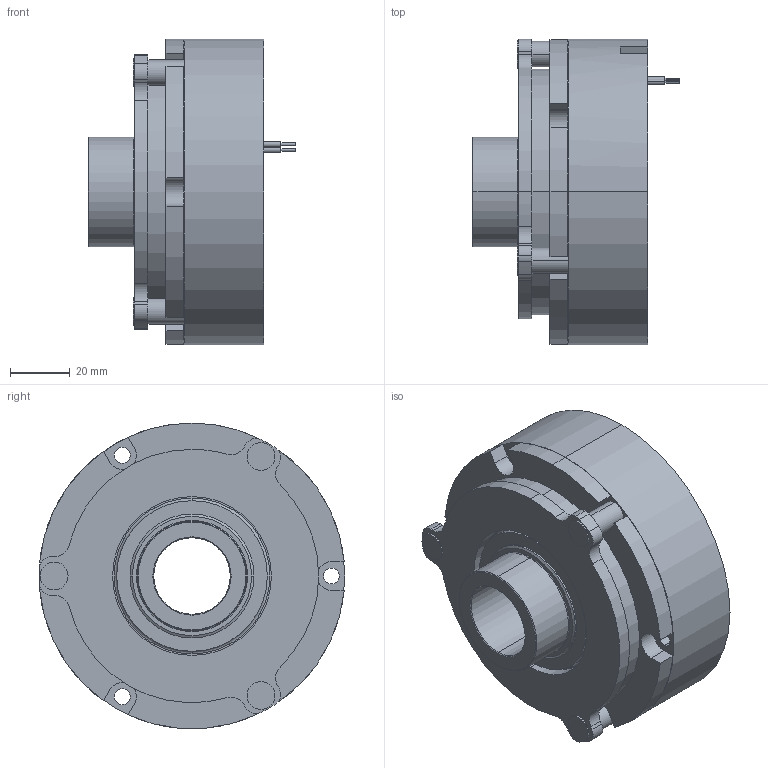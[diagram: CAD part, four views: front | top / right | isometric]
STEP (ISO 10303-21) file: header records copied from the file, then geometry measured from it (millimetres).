
FILE_DESCRIPTION (( 'STEP AP203' ), '1' );
FILE_NAME ('KS_10010A00_Customer_3D_model_19.12.17.STEP', '2018-01-16T09:46:45', ( '' ), ( '' ), 'SwSTEP 2.0', 'SolidWorks 2015', '' );
FILE_SCHEMA (( 'CONFIG_CONTROL_DESIGN' ));
Length unit declared in the file: millimetre
Products named in the file (1): KS_10010A00_Customer_3D_model_19.12.17
Bounding box: 69.35 x 102 x 102 mm (x, y, z)
Volume: 302666 mm3; surface area: 55331.2 mm2
Topology: 1 solids, 1 shells, 149 faces, 367 edges, 240 vertices
Faces by surface type: cylinder 92, plane 43, cone 6, torus 6, bspline 2
Entity records: 4624 total; most frequent: DIRECTION 867, CARTESIAN_POINT 793, ORIENTED_EDGE 734, EDGE_CURVE 367, AXIS2_PLACEMENT_3D 354, VERTEX_POINT 240, CIRCLE 206, EDGE_LOOP 183
